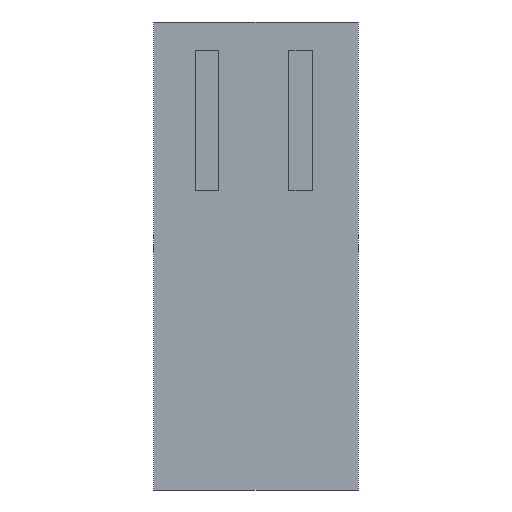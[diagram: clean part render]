
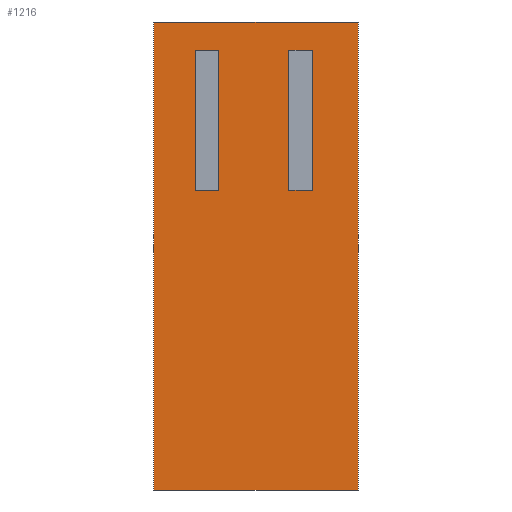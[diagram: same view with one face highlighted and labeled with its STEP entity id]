
A CAD part, front view. The second image highlights one B-rep face of the part: STEP entity #1216.
In plain terms, the highlighted planar face has unit normal (0, -1, 0).
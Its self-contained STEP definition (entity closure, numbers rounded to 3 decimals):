
#13=DIRECTION('',(-1.,0.,0.));
#14=VECTOR('',#13,5.54);
#15=CARTESIAN_POINT('',(2.77,0.,0.));
#16=LINE('',#15,#14);
#121=DIRECTION('',(-1.,0.,0.));
#122=VECTOR('',#121,5.54);
#123=CARTESIAN_POINT('',(2.77,0.,-12.7));
#124=LINE('',#123,#122);
#185=DIRECTION('',(0.,0.,-1.));
#186=VECTOR('',#185,12.7);
#187=CARTESIAN_POINT('',(2.77,0.,0.));
#188=LINE('',#187,#186);
#189=DIRECTION('',(0.,0.,-1.));
#190=VECTOR('',#189,3.81);
#191=CARTESIAN_POINT('',(-1.648,0.,-0.762));
#192=LINE('',#191,#190);
#193=DIRECTION('',(1.,0.,0.));
#194=VECTOR('',#193,0.635);
#195=CARTESIAN_POINT('',(-1.648,0.,-4.572));
#196=LINE('',#195,#194);
#197=DIRECTION('',(0.,0.,1.));
#198=VECTOR('',#197,3.81);
#199=CARTESIAN_POINT('',(-1.013,0.,-4.572));
#200=LINE('',#199,#198);
#201=DIRECTION('',(-1.,0.,0.));
#202=VECTOR('',#201,0.635);
#203=CARTESIAN_POINT('',(-1.013,0.,-0.762));
#204=LINE('',#203,#202);
#205=DIRECTION('',(0.,0.,-1.));
#206=VECTOR('',#205,3.81);
#207=CARTESIAN_POINT('',(0.893,0.,-0.762));
#208=LINE('',#207,#206);
#209=DIRECTION('',(1.,0.,0.));
#210=VECTOR('',#209,0.635);
#211=CARTESIAN_POINT('',(0.893,0.,-4.572));
#212=LINE('',#211,#210);
#213=DIRECTION('',(0.,0.,1.));
#214=VECTOR('',#213,3.81);
#215=CARTESIAN_POINT('',(1.528,0.,-4.572));
#216=LINE('',#215,#214);
#217=DIRECTION('',(-1.,0.,0.));
#218=VECTOR('',#217,0.635);
#219=CARTESIAN_POINT('',(1.528,0.,-0.762));
#220=LINE('',#219,#218);
#225=DIRECTION('',(0.,0.,-1.));
#226=VECTOR('',#225,12.7);
#227=CARTESIAN_POINT('',(-2.77,0.,0.));
#228=LINE('',#227,#226);
#705=CARTESIAN_POINT('',(2.77,0.,0.));
#706=CARTESIAN_POINT('',(-2.77,0.,0.));
#707=VERTEX_POINT('',#705);
#708=VERTEX_POINT('',#706);
#713=CARTESIAN_POINT('',(2.77,0.,-12.7));
#714=CARTESIAN_POINT('',(-2.77,0.,-12.7));
#715=VERTEX_POINT('',#713);
#716=VERTEX_POINT('',#714);
#769=CARTESIAN_POINT('',(-1.648,0.,-0.762));
#770=CARTESIAN_POINT('',(-1.648,0.,-4.572));
#771=VERTEX_POINT('',#769);
#772=VERTEX_POINT('',#770);
#773=CARTESIAN_POINT('',(-1.013,0.,-4.572));
#774=VERTEX_POINT('',#773);
#775=CARTESIAN_POINT('',(-1.013,0.,-0.762));
#776=VERTEX_POINT('',#775);
#861=CARTESIAN_POINT('',(0.893,0.,-0.762));
#862=CARTESIAN_POINT('',(0.893,0.,-4.572));
#863=VERTEX_POINT('',#861);
#864=VERTEX_POINT('',#862);
#865=CARTESIAN_POINT('',(1.528,0.,-4.572));
#866=VERTEX_POINT('',#865);
#867=CARTESIAN_POINT('',(1.528,0.,-0.762));
#868=VERTEX_POINT('',#867);
#1183=CARTESIAN_POINT('',(2.77,0.,0.));
#1184=DIRECTION('',(0.,-1.,0.));
#1185=DIRECTION('',(-1.,0.,0.));
#1186=AXIS2_PLACEMENT_3D('',#1183,#1184,#1185);
#1187=PLANE('',#1186);
#1188=ORIENTED_EDGE('',*,*,#944,.F.);
#1190=ORIENTED_EDGE('',*,*,#1189,.T.);
#1191=ORIENTED_EDGE('',*,*,#1139,.T.);
#1193=ORIENTED_EDGE('',*,*,#1192,.F.);
#1194=EDGE_LOOP('',(#1188,#1190,#1191,#1193));
#1195=FACE_OUTER_BOUND('',#1194,.F.);
#1197=ORIENTED_EDGE('',*,*,#1196,.T.);
#1199=ORIENTED_EDGE('',*,*,#1198,.T.);
#1201=ORIENTED_EDGE('',*,*,#1200,.T.);
#1203=ORIENTED_EDGE('',*,*,#1202,.T.);
#1204=EDGE_LOOP('',(#1197,#1199,#1201,#1203));
#1205=FACE_BOUND('',#1204,.F.);
#1207=ORIENTED_EDGE('',*,*,#1206,.T.);
#1209=ORIENTED_EDGE('',*,*,#1208,.T.);
#1211=ORIENTED_EDGE('',*,*,#1210,.T.);
#1213=ORIENTED_EDGE('',*,*,#1212,.T.);
#1214=EDGE_LOOP('',(#1207,#1209,#1211,#1213));
#1215=FACE_BOUND('',#1214,.F.);
#1216=ADVANCED_FACE('',(#1195,#1205,#1215),#1187,.T.);
#944=EDGE_CURVE('',#707,#708,#16,.T.);
#1139=EDGE_CURVE('',#715,#716,#124,.T.);
#1189=EDGE_CURVE('',#707,#715,#188,.T.);
#1192=EDGE_CURVE('',#708,#716,#228,.T.);
#1196=EDGE_CURVE('',#771,#772,#192,.T.);
#1198=EDGE_CURVE('',#772,#774,#196,.T.);
#1200=EDGE_CURVE('',#774,#776,#200,.T.);
#1202=EDGE_CURVE('',#776,#771,#204,.T.);
#1206=EDGE_CURVE('',#863,#864,#208,.T.);
#1208=EDGE_CURVE('',#864,#866,#212,.T.);
#1210=EDGE_CURVE('',#866,#868,#216,.T.);
#1212=EDGE_CURVE('',#868,#863,#220,.T.);
